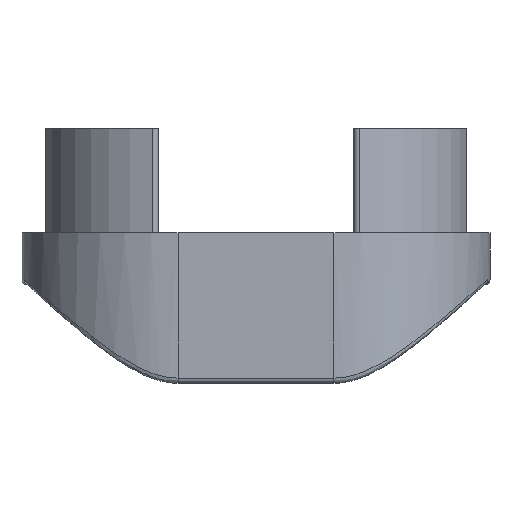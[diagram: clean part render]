
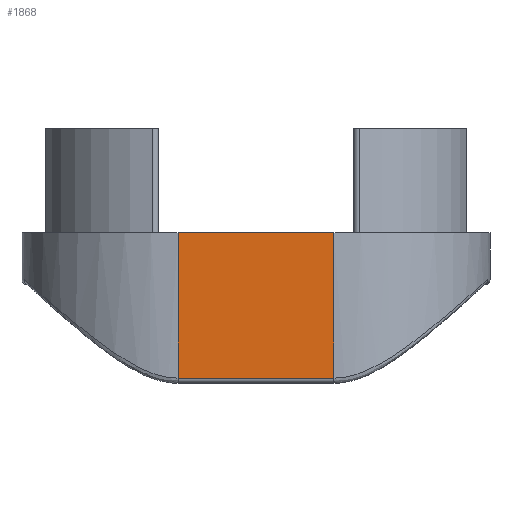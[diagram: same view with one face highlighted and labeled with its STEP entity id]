
A CAD part, front view. The second image highlights one B-rep face of the part: STEP entity #1868.
In plain terms, the highlighted planar face has unit normal (0, -1, 0).
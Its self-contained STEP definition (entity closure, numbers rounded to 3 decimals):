
#547 = AXIS2_PLACEMENT_3D ( 'NONE', #2143, #2149, #1975 ) ;
#610 = EDGE_CURVE ( 'NONE', #2304, #2301, #2582, .T. ) ;
#649 = EDGE_CURVE ( 'NONE', #2304, #2257, #2561, .T. ) ;
#665 = EDGE_CURVE ( 'NONE', #2257, #759, #2551, .T. ) ;
#673 = EDGE_CURVE ( 'NONE', #2301, #759, #2556, .T. ) ;
#759 = VERTEX_POINT ( 'NONE', #1166 ) ;
#985 = ORIENTED_EDGE ( 'NONE', *, *, #665, .F. ) ;
#986 = ORIENTED_EDGE ( 'NONE', *, *, #649, .F. ) ;
#1166 = CARTESIAN_POINT ( 'NONE',  ( -900.756, 1950.144, 6.02 ) ) ;
#1276 = CARTESIAN_POINT ( 'NONE',  ( -900.756, 1950.144, 20. ) ) ;
#1305 = CARTESIAN_POINT ( 'NONE',  ( -915.756, 1950.144, 6.02 ) ) ;
#1308 = CARTESIAN_POINT ( 'NONE',  ( -915.756, 1950.144, 20. ) ) ;
#1695 = FACE_OUTER_BOUND ( 'NONE', #2239, .T. ) ;
#1868 = ADVANCED_FACE ( 'NONE', ( #1695 ), #2145, .F. ) ;
#1975 = DIRECTION ( 'NONE',  ( -1., 0., 0. ) ) ;
#2143 = CARTESIAN_POINT ( 'NONE',  ( -915.756, 1950.144, 20. ) ) ;
#2145 = PLANE ( 'NONE',  #547 ) ;
#2149 = DIRECTION ( 'NONE',  ( 0., 1., 0. ) ) ;
#2239 = EDGE_LOOP ( 'NONE', ( #2323, #2330, #985, #986 ) ) ;
#2257 = VERTEX_POINT ( 'NONE', #1276 ) ;
#2301 = VERTEX_POINT ( 'NONE', #1305 ) ;
#2304 = VERTEX_POINT ( 'NONE', #1308 ) ;
#2323 = ORIENTED_EDGE ( 'NONE', *, *, #610, .T. ) ;
#2330 = ORIENTED_EDGE ( 'NONE', *, *, #673, .T. ) ;
#2535 = VECTOR ( 'NONE', #2648, 1000. ) ;
#2536 = VECTOR ( 'NONE', #2764, 1000. ) ;
#2551 = LINE ( 'NONE', #2628, #2560 ) ;
#2556 = LINE ( 'NONE', #2763, #2536 ) ;
#2560 = VECTOR ( 'NONE', #2634, 1000. ) ;
#2561 = LINE ( 'NONE', #2765, #2535 ) ;
#2582 = LINE ( 'NONE', #2642, #2590 ) ;
#2590 = VECTOR ( 'NONE', #2649, 1000. ) ;
#2628 = CARTESIAN_POINT ( 'NONE',  ( -900.756, 1950.144, 20. ) ) ;
#2634 = DIRECTION ( 'NONE',  ( 0., 0., -1. ) ) ;
#2642 = CARTESIAN_POINT ( 'NONE',  ( -915.756, 1950.144, 20. ) ) ;
#2648 = DIRECTION ( 'NONE',  ( 1., 0., 0. ) ) ;
#2649 = DIRECTION ( 'NONE',  ( 0., 0., -1. ) ) ;
#2763 = CARTESIAN_POINT ( 'NONE',  ( -915.756, 1950.144, 6.02 ) ) ;
#2764 = DIRECTION ( 'NONE',  ( 1., 0., 0. ) ) ;
#2765 = CARTESIAN_POINT ( 'NONE',  ( -915.756, 1950.144, 20. ) ) ;
